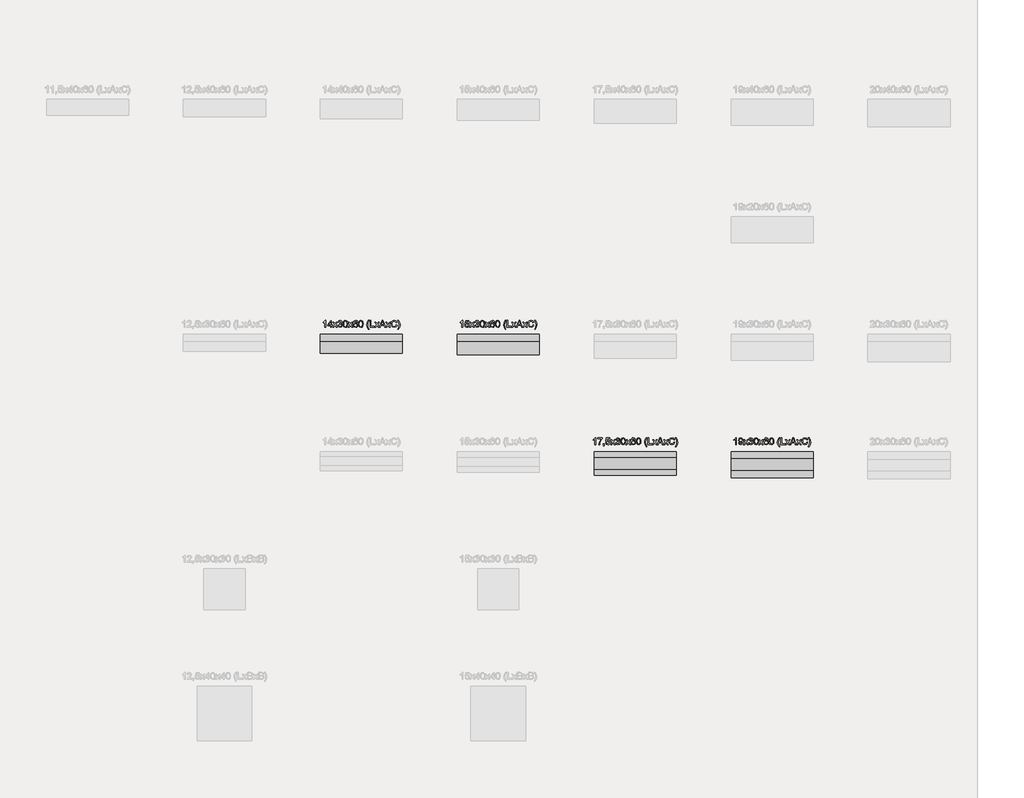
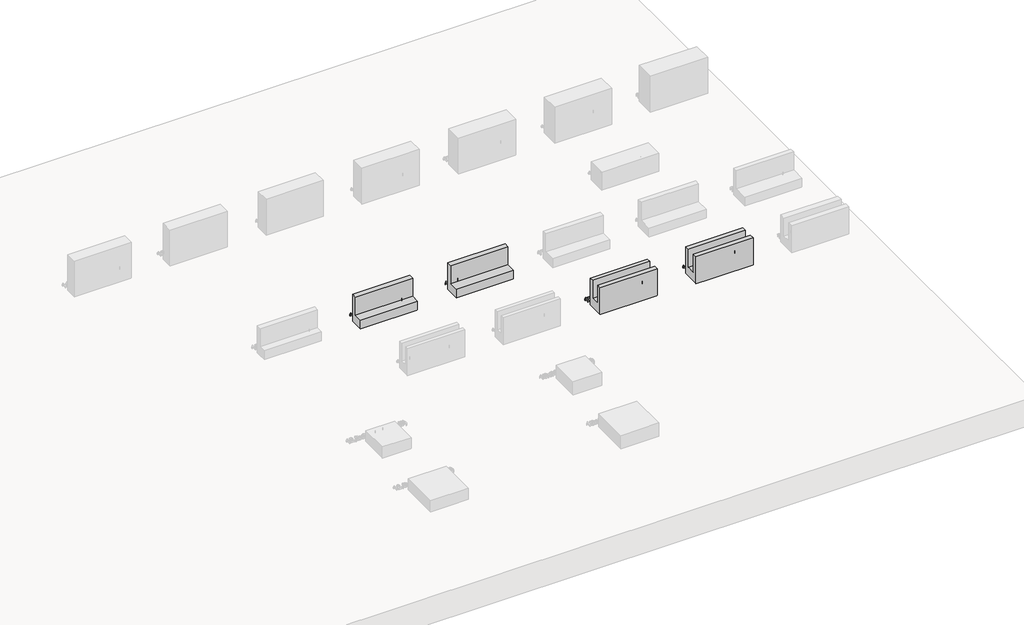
# One storey, part 9 of 26: 8 proxies.
"""IFC4 building model written with IfcOpenShell, lengths in millimetres."""

from ifc_helpers import new_model, si_unit, origin, origin_with_axes, place, context, project, spatial, polyline, outline, extrude, transform, mapped, element, save
from components import generic_models_f595f179, generic_models_95f945a7, generic_models_87ead979, generic_models_885e98a3

model = new_model("IFC4")

# Units and contexts
model_context = context("Model", 3, world=origin())
ifc_project = project(units=[si_unit("LENGTHUNIT", "METRE", prefix="MILLI")], contexts=[model_context])

# Site, building, storey
site = spatial("IfcSite", under=ifc_project)
building = spatial("IfcBuilding", under=site)
storey = spatial("IfcBuildingStorey", under=building, Name="Catálogo Celucon", Elevation=0.0)

# Proxies
placement = place(None, origin())
element("IfcBuildingElementProxy", 1, Name="Dimensões", ObjectType="Dimensões", at=placement, inside=storey, context=model_context, shape_type="SweptSolid", body=[
    extrude(outline(polyline([(-7758.0265226, -1171.1045836), (-7764.305042, -1171.1045836), (-7764.305042, -1131.9619393), (-7770.2524676, -1136.1987136), (-7776.8620808, -1139.3686301), (-7776.8620808, -1133.4334673), (-7767.6588995, -1127.5596181), (-7762.0732246, -1120.8764285), (-7758.0265226, -1120.8764285), (-7758.0265226, -1171.1045836)])), origin_with_axes(), (0.0, 0.0, 1.0), 20.0),
    extrude(outline(polyline([(-7722.7098511, -1171.1045836), (-7722.7098511, -1159.3323598), (-7745.4694838, -1159.3323598), (-7745.4694838, -1153.0538404), (-7721.1402212, -1121.6612434), (-7716.4313317, -1121.6612434), (-7716.4313317, -1153.0538404), (-7710.1528123, -1153.0538404), (-7710.1528123, -1159.3323598), (-7716.4313317, -1159.3323598), (-7716.4313317, -1171.1045836), (-7722.7098511, -1171.1045836)]), holes=[polyline([(-7722.7098511, -1153.0538404), (-7722.7098511, -1133.6541965), (-7737.7439619, -1153.0538404), (-7722.7098511, -1153.0538404)])]), origin_with_axes(), (0.0, 0.0, 1.0), 20.0),
    extrude(outline(polyline([(-7707.0135526, -1171.1045836), (-7693.5981225, -1152.563331), (-7706.2287377, -1134.2182822), (-7698.6748941, -1134.2182822), (-7692.5803157, -1143.0474501), (-7689.7353616, -1147.2167794), (-7687.2705522, -1143.8077396), (-7680.3298452, -1134.2182822), (-7672.7760016, -1134.2182822), (-7686.0442789, -1152.563331), (-7673.2665109, -1171.1045836), (-7680.8203546, -1171.1045836), (-7688.5090883, -1159.9577591), (-7689.9193026, -1157.9221454), (-7699.459709, -1171.1045836), (-7707.0135526, -1171.1045836)])), origin_with_axes(), (0.0, 0.0, 1.0), 20.0),
    extrude(outline(polyline([(-7669.3424363, -1157.7627299), (-7663.0639169, -1156.977915), (-7659.5996948, -1163.5875282), (-7653.1188403, -1165.6108791), (-7645.4914203, -1162.8272387), (-7642.6587289, -1155.9355827), (-7645.4668948, -1149.4424654), (-7652.6038055, -1146.8734228), (-7657.0061267, -1147.5601359), (-7656.3071509, -1141.2816165), (-7648.1769589, -1139.5525711), (-7645.0131737, -1134.0098158), (-7647.3063048, -1129.0985911), (-7653.2169422, -1127.1549479), (-7659.201156, -1129.1169852), (-7662.279102, -1135.0030971), (-7668.5576214, -1134.2182822), (-7663.4195362, -1124.3713075), (-7653.4376714, -1120.8764285), (-7645.8654337, -1122.5993425), (-7640.5679329, -1127.3082321), (-7638.7346543, -1133.6419338), (-7640.4759624, -1139.4299438), (-7645.6263104, -1143.5870104), (-7638.7837052, -1147.878967), (-7636.3802095, -1156.0459473), (-7641.1872009, -1167.2786108), (-7653.3395695, -1171.8893985), (-7664.3515039, -1167.9530612), (-7669.3424363, -1157.7627299)])), origin_with_axes(), (0.0, 0.0, 1.0), 20.0),
    extrude(outline(polyline([(-7630.8865051, -1146.3951763), (-7629.0409637, -1131.9435452), (-7623.559522, -1123.611018), (-7614.4053917, -1120.8764285), (-7607.0722773, -1122.4951093), (-7602.0077685, -1127.1610793), (-7599.0647125, -1134.5922956), (-7597.9242783, -1146.3951763), (-7599.7514256, -1160.7854936), (-7605.2144732, -1169.1364149), (-7614.4053917, -1171.8893985), (-7625.8833099, -1167.1069326), (-7629.6357063, -1158.6119242), (-7630.8865051, -1146.3951763)]), holes=[polyline([(-7624.6079857, -1146.3829135), (-7621.6649297, -1161.9749788), (-7614.4053917, -1165.6108791), (-7607.1458537, -1161.962716), (-7604.2027977, -1146.3829135), (-7607.0477518, -1130.9686579), (-7614.4789681, -1127.1549479), (-7621.5668279, -1130.5149368), (-7624.6079857, -1146.3829135)])]), origin_with_axes(), (0.0, 0.0, 1.0), 20.0),
    extrude(outline(polyline([(-7594.7850186, -1171.1045836), (-7581.3695885, -1152.563331), (-7594.0002037, -1134.2182822), (-7586.4463601, -1134.2182822), (-7580.3517817, -1143.0474501), (-7577.5068276, -1147.2167794), (-7575.0420182, -1143.8077396), (-7568.1013112, -1134.2182822), (-7560.5474676, -1134.2182822), (-7573.8157449, -1152.563331), (-7561.0379769, -1171.1045836), (-7568.5918206, -1171.1045836), (-7576.2805543, -1159.9577591), (-7577.6907686, -1157.9221454), (-7587.231175, -1171.1045836), (-7594.7850186, -1171.1045836)])), origin_with_axes(), (0.0, 0.0, 1.0), 20.0),
    extrude(outline(polyline([(-7524.9364905, -1134.2182822), (-7531.2150099, -1135.0030971), (-7533.5939801, -1129.7669101), (-7539.8847622, -1127.1549479), (-7545.5501449, -1128.6755268), (-7549.8359702, -1134.3838291), (-7551.6201979, -1145.5735731), (-7546.0835738, -1140.5642466), (-7539.2225746, -1138.9271718), (-7528.5539968, -1143.4030694), (-7524.1516755, -1154.9668267), (-7526.2240775, -1163.6304477), (-7531.9262484, -1169.7618143), (-7540.1545423, -1171.8893985), (-7552.9507044, -1166.2485413), (-7556.661714, -1158.7805368), (-7557.8987172, -1147.6582378), (-7556.5252911, -1135.1533156), (-7552.4050128, -1126.6031249), (-7546.7794839, -1122.3081026), (-7539.4923547, -1120.8764285), (-7529.5718036, -1124.4203584), (-7524.9364905, -1134.2182822)]), holes=[polyline([(-7551.6201979, -1154.8687249), (-7550.167064, -1160.307247), (-7546.304303, -1164.2558471), (-7540.6450517, -1165.6108791), (-7533.2444922, -1162.8027132), (-7530.4301949, -1155.1752932), (-7533.207704, -1147.8728356), (-7540.9025691, -1145.2056911), (-7548.4993323, -1147.8728356), (-7551.6201979, -1154.8687249)])]), origin_with_axes(), (0.0, 0.0, 1.0), 20.0),
    extrude(outline(polyline([(-7518.6579711, -1146.3951763), (-7516.8124297, -1131.9435452), (-7511.330988, -1123.611018), (-7502.1768577, -1120.8764285), (-7494.8437433, -1122.4951093), (-7489.7792345, -1127.1610793), (-7486.8361785, -1134.5922956), (-7485.6957443, -1146.3951763), (-7487.5228916, -1160.7854936), (-7492.9859392, -1169.1364149), (-7502.1768577, -1171.8893985), (-7513.654776, -1167.1069326), (-7517.4071723, -1158.6119242), (-7518.6579711, -1146.3951763)]), holes=[polyline([(-7512.3794517, -1146.3829135), (-7509.4363957, -1161.9749788), (-7502.1768577, -1165.6108791), (-7494.9173197, -1161.962716), (-7491.9742637, -1146.3829135), (-7494.8192178, -1130.9686579), (-7502.2504341, -1127.1549479), (-7509.3382939, -1130.5149368), (-7512.3794517, -1146.3829135)])]), origin_with_axes(), (0.0, 0.0, 1.0), 20.0),
    extrude(outline(polyline([(-7446.4549982, -1185.2312522), (-7455.3700052, -1170.5037097), (-7459.0120369, -1153.0170522), (-7456.2897102, -1137.7499494), (-7446.4549982, -1120.8764285), (-7441.7461086, -1120.8764285), (-7447.6199578, -1130.8215051), (-7451.151625, -1140.4600134), (-7452.7335176, -1153.0538404), (-7449.9866653, -1169.1486777), (-7441.7461086, -1185.2312522), (-7446.4549982, -1185.2312522)])), origin_with_axes(), (0.0, 0.0, 1.0), 20.0),
    extrude(outline(polyline([(-7434.6827743, -1171.1045836), (-7434.6827743, -1120.8764285), (-7428.4042549, -1120.8764285), (-7428.4042549, -1164.8260642), (-7403.2901774, -1164.8260642), (-7403.2901774, -1171.1045836), (-7434.6827743, -1171.1045836)])), origin_with_axes(), (0.0, 0.0, 1.0), 20.0),
    extrude(outline(polyline([(-7400.9357326, -1171.1045836), (-7387.5203025, -1152.563331), (-7400.1509177, -1134.2182822), (-7392.5970741, -1134.2182822), (-7386.5024957, -1143.0474501), (-7383.6575416, -1147.2167794), (-7381.1927322, -1143.8077396), (-7374.2520252, -1134.2182822), (-7366.6981816, -1134.2182822), (-7379.9664589, -1152.563331), (-7367.1886909, -1171.1045836), (-7374.7425346, -1171.1045836), (-7382.4312683, -1159.9577591), (-7383.8414826, -1157.9221454), (-7393.381889, -1171.1045836), (-7400.9357326, -1171.1045836)])), origin_with_axes(), (0.0, 0.0, 1.0), 20.0),
    extrude(outline(polyline([(-7366.7594953, -1171.1045836), (-7346.7099265, -1120.8764285), (-7341.3633749, -1120.8764285), (-7321.3138061, -1171.1045836), (-7327.9479448, -1171.1045836), (-7333.6991666, -1155.4082851), (-7354.3863975, -1155.4082851), (-7360.1253566, -1171.1045836), (-7366.7594953, -1171.1045836)]), holes=[polyline([(-7352.0810037, -1149.1297658), (-7335.9922977, -1149.1297658), (-7340.5172463, -1136.7811934), (-7344.0366507, -1127.1549479), (-7347.1636477, -1135.7020729), (-7352.0810037, -1149.1297658)])]), origin_with_axes(), (0.0, 0.0, 1.0), 20.0),
    extrude(outline(polyline([(-7319.3149806, -1171.1045836), (-7305.8995505, -1152.563331), (-7318.5301657, -1134.2182822), (-7310.9763221, -1134.2182822), (-7304.8817437, -1143.0474501), (-7302.0367896, -1147.2167794), (-7299.5719802, -1143.8077396), (-7292.6312733, -1134.2182822), (-7285.0774296, -1134.2182822), (-7298.3457069, -1152.563331), (-7285.5679389, -1171.1045836), (-7293.1217826, -1171.1045836), (-7300.8105163, -1159.9577591), (-7302.2207306, -1157.9221454), (-7311.761137, -1171.1045836), (-7319.3149806, -1171.1045836)])), origin_with_axes(), (0.0, 0.0, 1.0), 20.0),
    extrude(outline(polyline([(-7243.972748, -1153.2500441), (-7237.6942286, -1154.8687249), (-7245.1377077, -1167.5299969), (-7258.2833576, -1171.8893985), (-7271.3492998, -1168.5907233), (-7279.0135081, -1159.0380542), (-7281.6438643, -1145.6103613), (-7278.6701515, -1131.9619393), (-7270.214997, -1123.1143773), (-7258.1484676, -1120.0916136), (-7245.5730347, -1124.0034255), (-7238.4790436, -1135.0153599), (-7244.7575629, -1136.5114133), (-7249.9079109, -1128.7920228), (-7258.3937222, -1126.370133), (-7268.2161715, -1129.0556715), (-7273.7650583, -1136.2661587), (-7275.3653449, -1145.5980986), (-7273.4707527, -1156.4138293), (-7267.572378, -1163.3238794), (-7258.908757, -1165.6108791), (-7249.3009056, -1162.4961449), (-7243.972748, -1153.2500441)])), origin_with_axes(), (0.0, 0.0, 1.0), 20.0),
    extrude(outline(polyline([(-7228.2764496, -1185.2312522), (-7232.9853391, -1185.2312522), (-7224.7447824, -1169.1486777), (-7221.9979302, -1153.0538404), (-7223.5798228, -1140.570378), (-7227.0747017, -1130.919607), (-7232.9853391, -1120.8764285), (-7228.2764496, -1120.8764285), (-7218.4417376, -1137.7499494), (-7215.7194108, -1153.0170522), (-7219.3798366, -1170.5037097), (-7228.2764496, -1185.2312522)])), origin_with_axes(), (0.0, 0.0, 1.0), 20.0),
])
element("IfcBuildingElementProxy", 2, Name="Dimensões", ObjectType="Dimensões", at=placement, inside=storey, context=model_context, shape_type="SweptSolid", body=[
    extrude(outline(polyline([(-6758.0265226, -1171.1045836), (-6764.305042, -1171.1045836), (-6764.305042, -1131.9619393), (-6770.2524676, -1136.1987136), (-6776.8620808, -1139.3686301), (-6776.8620808, -1133.4334673), (-6767.6588995, -1127.5596181), (-6762.0732246, -1120.8764285), (-6758.0265226, -1120.8764285), (-6758.0265226, -1171.1045836)])), origin_with_axes(), (0.0, 0.0, 1.0), 20.0),
    extrude(outline(polyline([(-6743.1150391, -1157.7627299), (-6736.8365197, -1156.977915), (-6733.6727345, -1163.4465067), (-6727.1121723, -1165.6108791), (-6719.2394976, -1162.6003781), (-6716.4313317, -1154.6112075), (-6719.061688, -1147.1554657), (-6727.0140704, -1144.4208762), (-6732.526169, -1145.5122595), (-6736.0517048, -1148.3449508), (-6742.3302242, -1147.5601359), (-6736.8365197, -1121.6612434), (-6712.5072571, -1121.6612434), (-6712.5072571, -1127.9397628), (-6731.7597482, -1127.9397628), (-6734.4452867, -1141.7721258), (-6725.2604996, -1138.1423568), (-6714.5244767, -1142.6427799), (-6710.1528123, -1154.2188), (-6714.0891497, -1165.8683965), (-6719.7422697, -1170.384148), (-6727.1366978, -1171.8893985), (-6738.2160772, -1168.0205062), (-6743.1150391, -1157.7627299)])), origin_with_axes(), (0.0, 0.0, 1.0), 20.0),
    extrude(outline(polyline([(-6707.0135526, -1171.1045836), (-6693.5981225, -1152.563331), (-6706.2287377, -1134.2182822), (-6698.6748941, -1134.2182822), (-6692.5803157, -1143.0474501), (-6689.7353616, -1147.2167794), (-6687.2705522, -1143.8077396), (-6680.3298452, -1134.2182822), (-6672.7760016, -1134.2182822), (-6686.0442789, -1152.563331), (-6673.2665109, -1171.1045836), (-6680.8203546, -1171.1045836), (-6688.5090883, -1159.9577591), (-6689.9193026, -1157.9221454), (-6699.459709, -1171.1045836), (-6707.0135526, -1171.1045836)])), origin_with_axes(), (0.0, 0.0, 1.0), 20.0),
    extrude(outline(polyline([(-6669.3424363, -1157.7627299), (-6663.0639169, -1156.977915), (-6659.5996948, -1163.5875282), (-6653.1188403, -1165.6108791), (-6645.4914203, -1162.8272387), (-6642.6587289, -1155.9355827), (-6645.4668948, -1149.4424654), (-6652.6038055, -1146.8734228), (-6657.0061267, -1147.5601359), (-6656.3071509, -1141.2816165), (-6648.1769589, -1139.5525711), (-6645.0131737, -1134.0098158), (-6647.3063048, -1129.0985911), (-6653.2169422, -1127.1549479), (-6659.201156, -1129.1169852), (-6662.279102, -1135.0030971), (-6668.5576214, -1134.2182822), (-6663.4195362, -1124.3713075), (-6653.4376714, -1120.8764285), (-6645.8654337, -1122.5993425), (-6640.5679329, -1127.3082321), (-6638.7346543, -1133.6419338), (-6640.4759624, -1139.4299438), (-6645.6263104, -1143.5870104), (-6638.7837052, -1147.878967), (-6636.3802095, -1156.0459473), (-6641.1872009, -1167.2786108), (-6653.3395695, -1171.8893985), (-6664.3515039, -1167.9530612), (-6669.3424363, -1157.7627299)])), origin_with_axes(), (0.0, 0.0, 1.0), 20.0),
    extrude(outline(polyline([(-6630.8865051, -1146.3951763), (-6629.0409637, -1131.9435452), (-6623.559522, -1123.611018), (-6614.4053917, -1120.8764285), (-6607.0722773, -1122.4951093), (-6602.0077685, -1127.1610793), (-6599.0647125, -1134.5922956), (-6597.9242783, -1146.3951763), (-6599.7514256, -1160.7854936), (-6605.2144732, -1169.1364149), (-6614.4053917, -1171.8893985), (-6625.8833099, -1167.1069326), (-6629.6357063, -1158.6119242), (-6630.8865051, -1146.3951763)]), holes=[polyline([(-6624.6079857, -1146.3829135), (-6621.6649297, -1161.9749788), (-6614.4053917, -1165.6108791), (-6607.1458537, -1161.962716), (-6604.2027977, -1146.3829135), (-6607.0477518, -1130.9686579), (-6614.4789681, -1127.1549479), (-6621.5668279, -1130.5149368), (-6624.6079857, -1146.3829135)])]), origin_with_axes(), (0.0, 0.0, 1.0), 20.0),
    extrude(outline(polyline([(-6594.7850186, -1171.1045836), (-6581.3695885, -1152.563331), (-6594.0002037, -1134.2182822), (-6586.4463601, -1134.2182822), (-6580.3517817, -1143.0474501), (-6577.5068276, -1147.2167794), (-6575.0420182, -1143.8077396), (-6568.1013112, -1134.2182822), (-6560.5474676, -1134.2182822), (-6573.8157449, -1152.563331), (-6561.0379769, -1171.1045836), (-6568.5918206, -1171.1045836), (-6576.2805543, -1159.9577591), (-6577.6907686, -1157.9221454), (-6587.231175, -1171.1045836), (-6594.7850186, -1171.1045836)])), origin_with_axes(), (0.0, 0.0, 1.0), 20.0),
    extrude(outline(polyline([(-6524.9364905, -1134.2182822), (-6531.2150099, -1135.0030971), (-6533.5939801, -1129.7669101), (-6539.8847622, -1127.1549479), (-6545.5501449, -1128.6755268), (-6549.8359702, -1134.3838291), (-6551.6201979, -1145.5735731), (-6546.0835738, -1140.5642466), (-6539.2225746, -1138.9271718), (-6528.5539968, -1143.4030694), (-6524.1516755, -1154.9668267), (-6526.2240775, -1163.6304477), (-6531.9262484, -1169.7618143), (-6540.1545423, -1171.8893985), (-6552.9507044, -1166.2485413), (-6556.661714, -1158.7805368), (-6557.8987172, -1147.6582378), (-6556.5252911, -1135.1533156), (-6552.4050128, -1126.6031249), (-6546.7794839, -1122.3081026), (-6539.4923547, -1120.8764285), (-6529.5718036, -1124.4203584), (-6524.9364905, -1134.2182822)]), holes=[polyline([(-6551.6201979, -1154.8687249), (-6550.167064, -1160.307247), (-6546.304303, -1164.2558471), (-6540.6450517, -1165.6108791), (-6533.2444922, -1162.8027132), (-6530.4301949, -1155.1752932), (-6533.207704, -1147.8728356), (-6540.9025691, -1145.2056911), (-6548.4993323, -1147.8728356), (-6551.6201979, -1154.8687249)])]), origin_with_axes(), (0.0, 0.0, 1.0), 20.0),
    extrude(outline(polyline([(-6518.6579711, -1146.3951763), (-6516.8124297, -1131.9435452), (-6511.330988, -1123.611018), (-6502.1768577, -1120.8764285), (-6494.8437433, -1122.4951093), (-6489.7792345, -1127.1610793), (-6486.8361785, -1134.5922956), (-6485.6957443, -1146.3951763), (-6487.5228916, -1160.7854936), (-6492.9859392, -1169.1364149), (-6502.1768577, -1171.8893985), (-6513.654776, -1167.1069326), (-6517.4071723, -1158.6119242), (-6518.6579711, -1146.3951763)]), holes=[polyline([(-6512.3794517, -1146.3829135), (-6509.4363957, -1161.9749788), (-6502.1768577, -1165.6108791), (-6494.9173197, -1161.962716), (-6491.9742637, -1146.3829135), (-6494.8192178, -1130.9686579), (-6502.2504341, -1127.1549479), (-6509.3382939, -1130.5149368), (-6512.3794517, -1146.3829135)])]), origin_with_axes(), (0.0, 0.0, 1.0), 20.0),
    extrude(outline(polyline([(-6446.4549982, -1185.2312522), (-6455.3700052, -1170.5037097), (-6459.0120369, -1153.0170522), (-6456.2897102, -1137.7499494), (-6446.4549982, -1120.8764285), (-6441.7461086, -1120.8764285), (-6447.6199578, -1130.8215051), (-6451.151625, -1140.4600134), (-6452.7335176, -1153.0538404), (-6449.9866653, -1169.1486777), (-6441.7461086, -1185.2312522), (-6446.4549982, -1185.2312522)])), origin_with_axes(), (0.0, 0.0, 1.0), 20.0),
    extrude(outline(polyline([(-6434.6827743, -1171.1045836), (-6434.6827743, -1120.8764285), (-6428.4042549, -1120.8764285), (-6428.4042549, -1164.8260642), (-6403.2901774, -1164.8260642), (-6403.2901774, -1171.1045836), (-6434.6827743, -1171.1045836)])), origin_with_axes(), (0.0, 0.0, 1.0), 20.0),
    extrude(outline(polyline([(-6366.7594953, -1171.1045836), (-6346.7099265, -1120.8764285), (-6341.3633749, -1120.8764285), (-6321.3138061, -1171.1045836), (-6327.9479448, -1171.1045836), (-6333.6991666, -1155.4082851), (-6354.3863975, -1155.4082851), (-6360.1253566, -1171.1045836), (-6366.7594953, -1171.1045836)]), holes=[polyline([(-6352.0810037, -1149.1297658), (-6335.9922977, -1149.1297658), (-6340.5172463, -1136.7811934), (-6344.0366507, -1127.1549479), (-6347.1636477, -1135.7020729), (-6352.0810037, -1149.1297658)])]), origin_with_axes(), (0.0, 0.0, 1.0), 20.0),
    extrude(outline(polyline([(-6400.9357326, -1171.1045836), (-6387.5203025, -1152.563331), (-6400.1509177, -1134.2182822), (-6392.5970741, -1134.2182822), (-6386.5024957, -1143.0474501), (-6383.6575416, -1147.2167794), (-6381.1927322, -1143.8077396), (-6374.2520252, -1134.2182822), (-6366.6981816, -1134.2182822), (-6379.9664589, -1152.563331), (-6367.1886909, -1171.1045836), (-6374.7425346, -1171.1045836), (-6382.4312683, -1159.9577591), (-6383.8414826, -1157.9221454), (-6393.381889, -1171.1045836), (-6400.9357326, -1171.1045836)])), origin_with_axes(), (0.0, 0.0, 1.0), 20.0),
    extrude(outline(polyline([(-6319.3149806, -1171.1045836), (-6305.8995505, -1152.563331), (-6318.5301657, -1134.2182822), (-6310.9763221, -1134.2182822), (-6304.8817437, -1143.0474501), (-6302.0367896, -1147.2167794), (-6299.5719802, -1143.8077396), (-6292.6312733, -1134.2182822), (-6285.0774296, -1134.2182822), (-6298.3457069, -1152.563331), (-6285.5679389, -1171.1045836), (-6293.1217826, -1171.1045836), (-6300.8105163, -1159.9577591), (-6302.2207306, -1157.9221454), (-6311.761137, -1171.1045836), (-6319.3149806, -1171.1045836)])), origin_with_axes(), (0.0, 0.0, 1.0), 20.0),
    extrude(outline(polyline([(-6243.972748, -1153.2500441), (-6237.6942286, -1154.8687249), (-6245.1377077, -1167.5299969), (-6258.2833576, -1171.8893985), (-6271.3492998, -1168.5907233), (-6279.0135081, -1159.0380542), (-6281.6438643, -1145.6103613), (-6278.6701515, -1131.9619393), (-6270.214997, -1123.1143773), (-6258.1484676, -1120.0916136), (-6245.5730347, -1124.0034255), (-6238.4790436, -1135.0153599), (-6244.7575629, -1136.5114133), (-6249.9079109, -1128.7920228), (-6258.3937222, -1126.370133), (-6268.2161715, -1129.0556715), (-6273.7650583, -1136.2661587), (-6275.3653449, -1145.5980986), (-6273.4707527, -1156.4138293), (-6267.572378, -1163.3238794), (-6258.908757, -1165.6108791), (-6249.3009056, -1162.4961449), (-6243.972748, -1153.2500441)])), origin_with_axes(), (0.0, 0.0, 1.0), 20.0),
    extrude(outline(polyline([(-6228.2764496, -1185.2312522), (-6232.9853391, -1185.2312522), (-6224.7447824, -1169.1486777), (-6221.9979302, -1153.0538404), (-6223.5798228, -1140.570378), (-6227.0747017, -1130.919607), (-6232.9853391, -1120.8764285), (-6228.2764496, -1120.8764285), (-6218.4417376, -1137.7499494), (-6215.7194108, -1153.0170522), (-6219.3798366, -1170.5037097), (-6228.2764496, -1185.2312522)])), origin_with_axes(), (0.0, 0.0, 1.0), 20.0),
])
element("IfcBuildingElementProxy", 3, Name="Dimensões", ObjectType="Dimensões", at=placement, inside=storey, context=model_context, shape_type="SweptSolid", body=[
    extrude(outline(polyline([(-5787.0646748, -2028.2474407), (-5793.3431942, -2028.2474407), (-5793.3431942, -1989.1047965), (-5799.2906197, -1993.3415708), (-5805.9002329, -1996.5114873), (-5805.9002329, -1990.5763244), (-5796.6970517, -1984.7024752), (-5791.1113767, -1978.0192857), (-5787.0646748, -1978.0192857), (-5787.0646748, -2028.2474407)])), origin_with_axes(), (0.0, 0.0, 1.0), 20.0),
    extrude(outline(polyline([(-5772.1531912, -1985.08262), (-5772.1531912, -1978.8041006), (-5739.1909645, -1978.8041006), (-5739.1909645, -1983.8808721), (-5748.5412985, -1997.3882727), (-5755.6966033, -2014.5990187), (-5758.0265226, -2028.2474407), (-5764.305042, -2028.2474407), (-5761.8095758, -2014.0839839), (-5754.9608393, -1998.0749858), (-5745.4694838, -1985.08262), (-5772.1531912, -1985.08262)])), origin_with_axes(), (0.0, 0.0, 1.0), 20.0),
    extrude(outline(polyline([(-5730.5580003, -2028.2474407), (-5730.5580003, -2021.9689214), (-5724.2794809, -2021.9689214), (-5724.2794809, -2028.2474407), (-5725.4076524, -2034.6669816), (-5728.9883705, -2038.4500347), (-5730.5580003, -2036.09559), (-5728.2526065, -2033.3855259), (-5727.4310034, -2028.2474407), (-5730.5580003, -2028.2474407)])), origin_with_axes(), (0.0, 0.0, 1.0), 20.0),
    extrude(outline(polyline([(-5714.0768869, -2014.905587), (-5707.7983675, -2014.1207721), (-5704.6345824, -2020.5893639), (-5698.0740201, -2022.7537363), (-5690.2013454, -2019.7432353), (-5687.3931795, -2011.7540646), (-5690.0235358, -2004.2983229), (-5697.9759183, -2001.5637334), (-5703.4880168, -2002.6551166), (-5707.0135526, -2005.487808), (-5713.292072, -2004.7029931), (-5707.7983675, -1978.8041006), (-5683.4691049, -1978.8041006), (-5683.4691049, -1985.08262), (-5702.721596, -1985.08262), (-5705.4071346, -1998.914983), (-5696.2223474, -1995.285214), (-5685.4863245, -1999.785637), (-5681.1146602, -2011.3616572), (-5685.0509975, -2023.0112537), (-5690.7041175, -2027.5270052), (-5698.0985456, -2029.0322557), (-5709.177925, -2025.1633633), (-5714.0768869, -2014.905587)])), origin_with_axes(), (0.0, 0.0, 1.0), 20.0),
    extrude(outline(polyline([(-5677.9754005, -2028.2474407), (-5664.5599704, -2009.7061882), (-5677.1905855, -1991.3611394), (-5669.6367419, -1991.3611394), (-5663.5421635, -2000.1903072), (-5660.6972094, -2004.3596365), (-5658.2324001, -2000.9505967), (-5651.2916931, -1991.3611394), (-5643.7378494, -1991.3611394), (-5657.0061267, -2009.7061882), (-5644.2283588, -2028.2474407), (-5651.7822024, -2028.2474407), (-5659.4709361, -2017.1006163), (-5660.8811504, -2015.0650026), (-5670.4215568, -2028.2474407), (-5677.9754005, -2028.2474407)])), origin_with_axes(), (0.0, 0.0, 1.0), 20.0),
    extrude(outline(polyline([(-5640.3042842, -2014.905587), (-5634.0257648, -2014.1207721), (-5630.5615427, -2020.7303853), (-5624.0806882, -2022.7537363), (-5616.4532681, -2019.9700958), (-5613.6205768, -2013.0784398), (-5616.4287427, -2006.5853226), (-5623.5656534, -2004.01628), (-5627.9679746, -2004.7029931), (-5627.2689988, -1998.4244737), (-5619.1388067, -1996.6954283), (-5615.9750215, -1991.1526729), (-5618.2681526, -1986.2414483), (-5624.17879, -1984.2978051), (-5630.1630038, -1986.2598424), (-5633.2409499, -1992.1459543), (-5639.5194692, -1991.3611394), (-5634.381384, -1981.5141646), (-5624.3995192, -1978.0192857), (-5616.8272815, -1979.7421997), (-5611.5297808, -1984.4510892), (-5609.6965022, -1990.7847909), (-5611.4378103, -1996.572801), (-5616.5881582, -2000.7298675), (-5609.7455531, -2005.0218241), (-5607.3420574, -2013.1888044), (-5612.1490488, -2024.421468), (-5624.3014174, -2029.0322557), (-5635.3133518, -2025.0959183), (-5640.3042842, -2014.905587)])), origin_with_axes(), (0.0, 0.0, 1.0), 20.0),
    extrude(outline(polyline([(-5601.8483529, -2003.5380334), (-5600.0028116, -1989.0864024), (-5594.5213699, -1980.7538752), (-5585.3672395, -1978.0192857), (-5578.0341251, -1979.6379664), (-5572.9696163, -1984.3039364), (-5570.0265603, -1991.7351527), (-5568.8861262, -2003.5380334), (-5570.7132734, -2017.9283508), (-5576.176321, -2026.2792721), (-5585.3672395, -2029.0322557), (-5596.8451578, -2024.2497897), (-5600.5975541, -2015.7547813), (-5601.8483529, -2003.5380334)]), holes=[polyline([(-5595.5698335, -2003.5257707), (-5592.6267776, -2019.1178359), (-5585.3672395, -2022.7537363), (-5578.1077015, -2019.1055732), (-5575.1646455, -2003.5257707), (-5578.0095996, -1988.1115151), (-5585.4408159, -1984.2978051), (-5592.5286757, -1987.6577939), (-5595.5698335, -2003.5257707)])]), origin_with_axes(), (0.0, 0.0, 1.0), 20.0),
    extrude(outline(polyline([(-5565.7468665, -2028.2474407), (-5552.3314364, -2009.7061882), (-5564.9620515, -1991.3611394), (-5557.4082079, -1991.3611394), (-5551.3136295, -2000.1903072), (-5548.4686754, -2004.3596365), (-5546.0038661, -2000.9505967), (-5539.0631591, -1991.3611394), (-5531.5093155, -1991.3611394), (-5544.7775927, -2009.7061882), (-5531.9998248, -2028.2474407), (-5539.5536684, -2028.2474407), (-5547.2424021, -2017.1006163), (-5548.6526164, -2015.0650026), (-5558.1930228, -2028.2474407), (-5565.7468665, -2028.2474407)])), origin_with_axes(), (0.0, 0.0, 1.0), 20.0),
    extrude(outline(polyline([(-5495.8983383, -1991.3611394), (-5502.1768577, -1992.1459543), (-5504.5558279, -1986.9097672), (-5510.8466101, -1984.2978051), (-5516.5119928, -1985.818384), (-5520.797818, -1991.5266863), (-5522.5820457, -2002.7164303), (-5517.0454217, -1997.7071038), (-5510.1844225, -1996.0700289), (-5499.5158446, -2000.5459265), (-5495.1135234, -2012.1096839), (-5497.1859253, -2020.7733049), (-5502.8880962, -2026.9046715), (-5511.1163902, -2029.0322557), (-5523.9125523, -2023.3913984), (-5527.6235619, -2015.9233939), (-5528.8605651, -2004.8010949), (-5527.487139, -1992.2961728), (-5523.3668606, -1983.7459821), (-5517.7413318, -1979.4509598), (-5510.4542026, -1978.0192857), (-5500.5336515, -1981.5632156), (-5495.8983383, -1991.3611394)]), holes=[polyline([(-5522.5820457, -2012.011582), (-5521.1289118, -2017.4501042), (-5517.2661509, -2021.3987043), (-5511.6068995, -2022.7537363), (-5504.20634, -2019.9455704), (-5501.3920428, -2012.3181504), (-5504.1695518, -2005.0156927), (-5511.8644169, -2002.3485483), (-5519.4611801, -2005.0156927), (-5522.5820457, -2012.011582)])]), origin_with_axes(), (0.0, 0.0, 1.0), 20.0),
    extrude(outline(polyline([(-5489.6198189, -2003.5380334), (-5487.7742776, -1989.0864024), (-5482.2928359, -1980.7538752), (-5473.1387056, -1978.0192857), (-5465.8055911, -1979.6379664), (-5460.7410823, -1984.3039364), (-5457.7980264, -1991.7351527), (-5456.6575922, -2003.5380334), (-5458.4847394, -2017.9283508), (-5463.947787, -2026.2792721), (-5473.1387056, -2029.0322557), (-5484.6166238, -2024.2497897), (-5488.3690202, -2015.7547813), (-5489.6198189, -2003.5380334)]), holes=[polyline([(-5483.3412996, -2003.5257707), (-5480.3982436, -2019.1178359), (-5473.1387056, -2022.7537363), (-5465.8791675, -2019.1055732), (-5462.9361116, -2003.5257707), (-5465.7810656, -1988.1115151), (-5473.212282, -1984.2978051), (-5480.3001417, -1987.6577939), (-5483.3412996, -2003.5257707)])]), origin_with_axes(), (0.0, 0.0, 1.0), 20.0),
    extrude(outline(polyline([(-5417.416846, -2042.3741094), (-5426.331853, -2027.6465668), (-5429.9738848, -2010.1599093), (-5427.251558, -1994.8928065), (-5417.416846, -1978.0192857), (-5412.7079565, -1978.0192857), (-5418.5818057, -1987.9643623), (-5422.1134728, -1997.6028705), (-5423.6953654, -2010.1966975), (-5420.9485132, -2026.2915348), (-5412.7079565, -2042.3741094), (-5417.416846, -2042.3741094)])), origin_with_axes(), (0.0, 0.0, 1.0), 20.0),
    extrude(outline(polyline([(-5405.6446222, -2028.2474407), (-5405.6446222, -1978.0192857), (-5399.3661028, -1978.0192857), (-5399.3661028, -2021.9689214), (-5374.2520252, -2021.9689214), (-5374.2520252, -2028.2474407), (-5405.6446222, -2028.2474407)])), origin_with_axes(), (0.0, 0.0, 1.0), 20.0),
    extrude(outline(polyline([(-5337.7213431, -2028.2474407), (-5317.6717744, -1978.0192857), (-5312.3252227, -1978.0192857), (-5292.275654, -2028.2474407), (-5298.9097926, -2028.2474407), (-5304.6610145, -2012.5511423), (-5325.3482454, -2012.5511423), (-5331.0872045, -2028.2474407), (-5337.7213431, -2028.2474407)]), holes=[polyline([(-5323.0428515, -2006.2726229), (-5306.9541456, -2006.2726229), (-5311.4790941, -1993.9240506), (-5314.9984986, -1984.2978051), (-5318.1254955, -1992.8449301), (-5323.0428515, -2006.2726229)])]), origin_with_axes(), (0.0, 0.0, 1.0), 20.0),
    extrude(outline(polyline([(-5371.8975805, -2028.2474407), (-5358.4821504, -2009.7061882), (-5371.1127656, -1991.3611394), (-5363.5589219, -1991.3611394), (-5357.4643435, -2000.1903072), (-5354.6193894, -2004.3596365), (-5352.1545801, -2000.9505967), (-5345.2138731, -1991.3611394), (-5337.6600295, -1991.3611394), (-5350.9283068, -2009.7061882), (-5338.1505388, -2028.2474407), (-5345.7043824, -2028.2474407), (-5353.3931161, -2017.1006163), (-5354.8033304, -2015.0650026), (-5364.3437368, -2028.2474407), (-5371.8975805, -2028.2474407)])), origin_with_axes(), (0.0, 0.0, 1.0), 20.0),
    extrude(outline(polyline([(-5290.2768285, -2028.2474407), (-5276.8613984, -2009.7061882), (-5289.4920136, -1991.3611394), (-5281.9381699, -1991.3611394), (-5275.8435915, -2000.1903072), (-5272.9986374, -2004.3596365), (-5270.5338281, -2000.9505967), (-5263.5931211, -1991.3611394), (-5256.0392775, -1991.3611394), (-5269.3075548, -2009.7061882), (-5256.5297868, -2028.2474407), (-5264.0836304, -2028.2474407), (-5271.7723641, -2017.1006163), (-5273.1825784, -2015.0650026), (-5282.7229848, -2028.2474407), (-5290.2768285, -2028.2474407)])), origin_with_axes(), (0.0, 0.0, 1.0), 20.0),
    extrude(outline(polyline([(-5214.9345959, -2010.3929012), (-5208.6560765, -2012.011582), (-5216.0995555, -2024.672854), (-5229.2452055, -2029.0322557), (-5242.3111477, -2025.7335804), (-5249.9753559, -2016.1809113), (-5252.6057122, -2002.7532185), (-5249.6319994, -1989.1047965), (-5241.1768449, -1980.2572345), (-5229.1103154, -1977.2344707), (-5216.5348825, -1981.1462826), (-5209.4408914, -1992.158217), (-5215.7194108, -1993.6542705), (-5220.8697587, -1985.9348799), (-5229.3555701, -1983.5129901), (-5239.1780194, -1986.1985287), (-5244.7269061, -1993.4090158), (-5246.3271928, -2002.7409557), (-5244.4326005, -2013.5566864), (-5238.5342259, -2020.4667365), (-5229.8706049, -2022.7537363), (-5220.2627534, -2019.6390021), (-5214.9345959, -2010.3929012)])), origin_with_axes(), (0.0, 0.0, 1.0), 20.0),
    extrude(outline(polyline([(-5199.2382974, -2042.3741094), (-5203.9471869, -2042.3741094), (-5195.7066303, -2026.2915348), (-5192.959778, -2010.1966975), (-5194.5416706, -1997.7132351), (-5198.0365496, -1988.0624641), (-5203.9471869, -1978.0192857), (-5199.2382974, -1978.0192857), (-5189.4035854, -1994.8928065), (-5186.6812586, -2010.1599093), (-5190.3416845, -2027.6465668), (-5199.2382974, -2042.3741094)])), origin_with_axes(), (0.0, 0.0, 1.0), 20.0),
])
element("IfcBuildingElementProxy", 4, Name="Dimensões", ObjectType="Dimensões", at=placement, inside=storey, context=model_context, shape_type="SweptSolid", body=[
    extrude(outline(polyline([(-4758.0265226, -2028.2474407), (-4764.305042, -2028.2474407), (-4764.305042, -1989.1047965), (-4770.2524676, -1993.3415708), (-4776.8620808, -1996.5114873), (-4776.8620808, -1990.5763244), (-4767.6588995, -1984.7024752), (-4762.0732246, -1978.0192857), (-4758.0265226, -1978.0192857), (-4758.0265226, -2028.2474407)])), origin_with_axes(), (0.0, 0.0, 1.0), 20.0),
    extrude(outline(polyline([(-4742.3302242, -2015.690402), (-4736.0517048, -2014.905587), (-4733.2312761, -2020.8959322), (-4727.8847245, -2022.7537363), (-4722.8018216, -2021.5581198), (-4719.3559936, -2018.3636778), (-4717.3019857, -2012.9067615), (-4716.3945435, -2005.622698), (-4721.4529209, -2009.1543652), (-4728.3384456, -2010.9815124), (-4738.8292138, -2006.5178776), (-4743.1150391, -1994.7579164), (-4738.6207474, -1982.6178106), (-4727.357427, -1978.0192857), (-4718.4117631, -1980.6435106), (-4712.255871, -1988.1237778), (-4710.1528123, -2002.17687), (-4712.2497397, -2017.4255787), (-4718.4853395, -2026.0646742), (-4728.1790301, -2029.0322557), (-4737.8298011, -2025.5312453), (-4742.3302242, -2015.690402)]), holes=[polyline([(-4716.4313317, -1994.6107636), (-4719.1413957, -1987.0814455), (-4726.3396201, -1984.2978051), (-4733.8934637, -1987.2960433), (-4736.8365197, -1995.0644848), (-4734.0528793, -2002.0235859), (-4726.5112984, -2004.7029931), (-4719.2701544, -2002.0235859), (-4716.4313317, -1994.6107636)])]), origin_with_axes(), (0.0, 0.0, 1.0), 20.0),
    extrude(outline(polyline([(-4707.0135526, -2028.2474407), (-4693.5981225, -2009.7061882), (-4706.2287377, -1991.3611394), (-4698.6748941, -1991.3611394), (-4692.5803157, -2000.1903072), (-4689.7353616, -2004.3596365), (-4687.2705522, -2000.9505967), (-4680.3298452, -1991.3611394), (-4672.7760016, -1991.3611394), (-4686.0442789, -2009.7061882), (-4673.2665109, -2028.2474407), (-4680.8203546, -2028.2474407), (-4688.5090883, -2017.1006163), (-4689.9193026, -2015.0650026), (-4699.459709, -2028.2474407), (-4707.0135526, -2028.2474407)])), origin_with_axes(), (0.0, 0.0, 1.0), 20.0),
    extrude(outline(polyline([(-4669.3424363, -2014.905587), (-4663.0639169, -2014.1207721), (-4659.5996948, -2020.7303853), (-4653.1188403, -2022.7537363), (-4645.4914203, -2019.9700958), (-4642.6587289, -2013.0784398), (-4645.4668948, -2006.5853226), (-4652.6038055, -2004.01628), (-4657.0061267, -2004.7029931), (-4656.3071509, -1998.4244737), (-4648.1769589, -1996.6954283), (-4645.0131737, -1991.1526729), (-4647.3063048, -1986.2414483), (-4653.2169422, -1984.2978051), (-4659.201156, -1986.2598424), (-4662.279102, -1992.1459543), (-4668.5576214, -1991.3611394), (-4663.4195362, -1981.5141646), (-4653.4376714, -1978.0192857), (-4645.8654337, -1979.7421997), (-4640.5679329, -1984.4510892), (-4638.7346543, -1990.7847909), (-4640.4759624, -1996.572801), (-4645.6263104, -2000.7298675), (-4638.7837052, -2005.0218241), (-4636.3802095, -2013.1888044), (-4641.1872009, -2024.421468), (-4653.3395695, -2029.0322557), (-4664.3515039, -2025.0959183), (-4669.3424363, -2014.905587)])), origin_with_axes(), (0.0, 0.0, 1.0), 20.0),
    extrude(outline(polyline([(-4630.8865051, -2003.5380334), (-4629.0409637, -1989.0864024), (-4623.559522, -1980.7538752), (-4614.4053917, -1978.0192857), (-4607.0722773, -1979.6379664), (-4602.0077685, -1984.3039364), (-4599.0647125, -1991.7351527), (-4597.9242783, -2003.5380334), (-4599.7514256, -2017.9283508), (-4605.2144732, -2026.2792721), (-4614.4053917, -2029.0322557), (-4625.8833099, -2024.2497897), (-4629.6357063, -2015.7547813), (-4630.8865051, -2003.5380334)]), holes=[polyline([(-4624.6079857, -2003.5257707), (-4621.6649297, -2019.1178359), (-4614.4053917, -2022.7537363), (-4607.1458537, -2019.1055732), (-4604.2027977, -2003.5257707), (-4607.0477518, -1988.1115151), (-4614.4789681, -1984.2978051), (-4621.5668279, -1987.6577939), (-4624.6079857, -2003.5257707)])]), origin_with_axes(), (0.0, 0.0, 1.0), 20.0),
    extrude(outline(polyline([(-4594.7850186, -2028.2474407), (-4581.3695885, -2009.7061882), (-4594.0002037, -1991.3611394), (-4586.4463601, -1991.3611394), (-4580.3517817, -2000.1903072), (-4577.5068276, -2004.3596365), (-4575.0420182, -2000.9505967), (-4568.1013112, -1991.3611394), (-4560.5474676, -1991.3611394), (-4573.8157449, -2009.7061882), (-4561.0379769, -2028.2474407), (-4568.5918206, -2028.2474407), (-4576.2805543, -2017.1006163), (-4577.6907686, -2015.0650026), (-4587.231175, -2028.2474407), (-4594.7850186, -2028.2474407)])), origin_with_axes(), (0.0, 0.0, 1.0), 20.0),
    extrude(outline(polyline([(-4524.9364905, -1991.3611394), (-4531.2150099, -1992.1459543), (-4533.5939801, -1986.9097672), (-4539.8847622, -1984.2978051), (-4545.5501449, -1985.818384), (-4549.8359702, -1991.5266863), (-4551.6201979, -2002.7164303), (-4546.0835738, -1997.7071038), (-4539.2225746, -1996.0700289), (-4528.5539968, -2000.5459265), (-4524.1516755, -2012.1096839), (-4526.2240775, -2020.7733049), (-4531.9262484, -2026.9046715), (-4540.1545423, -2029.0322557), (-4552.9507044, -2023.3913984), (-4556.661714, -2015.9233939), (-4557.8987172, -2004.8010949), (-4556.5252911, -1992.2961728), (-4552.4050128, -1983.7459821), (-4546.7794839, -1979.4509598), (-4539.4923547, -1978.0192857), (-4529.5718036, -1981.5632156), (-4524.9364905, -1991.3611394)]), holes=[polyline([(-4551.6201979, -2012.011582), (-4550.167064, -2017.4501042), (-4546.304303, -2021.3987043), (-4540.6450517, -2022.7537363), (-4533.2444922, -2019.9455704), (-4530.4301949, -2012.3181504), (-4533.207704, -2005.0156927), (-4540.9025691, -2002.3485483), (-4548.4993323, -2005.0156927), (-4551.6201979, -2012.011582)])]), origin_with_axes(), (0.0, 0.0, 1.0), 20.0),
    extrude(outline(polyline([(-4518.6579711, -2003.5380334), (-4516.8124297, -1989.0864024), (-4511.330988, -1980.7538752), (-4502.1768577, -1978.0192857), (-4494.8437433, -1979.6379664), (-4489.7792345, -1984.3039364), (-4486.8361785, -1991.7351527), (-4485.6957443, -2003.5380334), (-4487.5228916, -2017.9283508), (-4492.9859392, -2026.2792721), (-4502.1768577, -2029.0322557), (-4513.654776, -2024.2497897), (-4517.4071723, -2015.7547813), (-4518.6579711, -2003.5380334)]), holes=[polyline([(-4512.3794517, -2003.5257707), (-4509.4363957, -2019.1178359), (-4502.1768577, -2022.7537363), (-4494.9173197, -2019.1055732), (-4491.9742637, -2003.5257707), (-4494.8192178, -1988.1115151), (-4502.2504341, -1984.2978051), (-4509.3382939, -1987.6577939), (-4512.3794517, -2003.5257707)])]), origin_with_axes(), (0.0, 0.0, 1.0), 20.0),
    extrude(outline(polyline([(-4446.4549982, -2042.3741094), (-4455.3700052, -2027.6465668), (-4459.0120369, -2010.1599093), (-4456.2897102, -1994.8928065), (-4446.4549982, -1978.0192857), (-4441.7461086, -1978.0192857), (-4447.6199578, -1987.9643623), (-4451.151625, -1997.6028705), (-4452.7335176, -2010.1966975), (-4449.9866653, -2026.2915348), (-4441.7461086, -2042.3741094), (-4446.4549982, -2042.3741094)])), origin_with_axes(), (0.0, 0.0, 1.0), 20.0),
    extrude(outline(polyline([(-4434.6827743, -2028.2474407), (-4434.6827743, -1978.0192857), (-4428.4042549, -1978.0192857), (-4428.4042549, -2021.9689214), (-4403.2901774, -2021.9689214), (-4403.2901774, -2028.2474407), (-4434.6827743, -2028.2474407)])), origin_with_axes(), (0.0, 0.0, 1.0), 20.0),
    extrude(outline(polyline([(-4366.7594953, -2028.2474407), (-4346.7099265, -1978.0192857), (-4341.3633749, -1978.0192857), (-4321.3138061, -2028.2474407), (-4327.9479448, -2028.2474407), (-4333.6991666, -2012.5511423), (-4354.3863975, -2012.5511423), (-4360.1253566, -2028.2474407), (-4366.7594953, -2028.2474407)]), holes=[polyline([(-4352.0810037, -2006.2726229), (-4335.9922977, -2006.2726229), (-4340.5172463, -1993.9240506), (-4344.0366507, -1984.2978051), (-4347.1636477, -1992.8449301), (-4352.0810037, -2006.2726229)])]), origin_with_axes(), (0.0, 0.0, 1.0), 20.0),
    extrude(outline(polyline([(-4400.9357326, -2028.2474407), (-4387.5203025, -2009.7061882), (-4400.1509177, -1991.3611394), (-4392.5970741, -1991.3611394), (-4386.5024957, -2000.1903072), (-4383.6575416, -2004.3596365), (-4381.1927322, -2000.9505967), (-4374.2520252, -1991.3611394), (-4366.6981816, -1991.3611394), (-4379.9664589, -2009.7061882), (-4367.1886909, -2028.2474407), (-4374.7425346, -2028.2474407), (-4382.4312683, -2017.1006163), (-4383.8414826, -2015.0650026), (-4393.381889, -2028.2474407), (-4400.9357326, -2028.2474407)])), origin_with_axes(), (0.0, 0.0, 1.0), 20.0),
    extrude(outline(polyline([(-4319.3149806, -2028.2474407), (-4305.8995505, -2009.7061882), (-4318.5301657, -1991.3611394), (-4310.9763221, -1991.3611394), (-4304.8817437, -2000.1903072), (-4302.0367896, -2004.3596365), (-4299.5719802, -2000.9505967), (-4292.6312733, -1991.3611394), (-4285.0774296, -1991.3611394), (-4298.3457069, -2009.7061882), (-4285.5679389, -2028.2474407), (-4293.1217826, -2028.2474407), (-4300.8105163, -2017.1006163), (-4302.2207306, -2015.0650026), (-4311.761137, -2028.2474407), (-4319.3149806, -2028.2474407)])), origin_with_axes(), (0.0, 0.0, 1.0), 20.0),
    extrude(outline(polyline([(-4243.972748, -2010.3929012), (-4237.6942286, -2012.011582), (-4245.1377077, -2024.672854), (-4258.2833576, -2029.0322557), (-4271.3492998, -2025.7335804), (-4279.0135081, -2016.1809113), (-4281.6438643, -2002.7532185), (-4278.6701515, -1989.1047965), (-4270.214997, -1980.2572345), (-4258.1484676, -1977.2344707), (-4245.5730347, -1981.1462826), (-4238.4790436, -1992.158217), (-4244.7575629, -1993.6542705), (-4249.9079109, -1985.9348799), (-4258.3937222, -1983.5129901), (-4268.2161715, -1986.1985287), (-4273.7650583, -1993.4090158), (-4275.3653449, -2002.7409557), (-4273.4707527, -2013.5566864), (-4267.572378, -2020.4667365), (-4258.908757, -2022.7537363), (-4249.3009056, -2019.6390021), (-4243.972748, -2010.3929012)])), origin_with_axes(), (0.0, 0.0, 1.0), 20.0),
    extrude(outline(polyline([(-4228.2764496, -2042.3741094), (-4232.9853391, -2042.3741094), (-4224.7447824, -2026.2915348), (-4221.9979302, -2010.1966975), (-4223.5798228, -1997.7132351), (-4227.0747017, -1988.0624641), (-4232.9853391, -1978.0192857), (-4228.2764496, -1978.0192857), (-4218.4417376, -1994.8928065), (-4215.7194108, -2010.1599093), (-4219.3798366, -2027.6465668), (-4228.2764496, -2042.3741094)])), origin_with_axes(), (0.0, 0.0, 1.0), 20.0),
])
generic_models_shape = generic_models_f595f179(model_context)
element("IfcBuildingElementProxy", 5, Name="Módulo L de Concreto Celular - Celucon : MLCC 15x30x60cm (L x A x C)", ObjectType="Módulo L de Concreto Celular - Celucon : MLCC 15x30x60cm (L x A x C)", at=placement, inside=storey, context=model_context, shape_type="MappedRepresentation", body=[
    mapped(generic_models_shape, transform((-6497.8603756, -1296.1045836, 0.0), x_axis=(1.0, 0.0, 0.0), y_axis=(0.0, 1.0, 0.0), z_axis=(0.0, 0.0, 1.0))),
])
generic_models_2_shape = generic_models_95f945a7(model_context)
element("IfcBuildingElementProxy", 6, Name="Módulo L de Concreto Celular - Celucon : MLCC 14x30x60cm (L x A x C)", ObjectType="Módulo L de Concreto Celular - Celucon : MLCC 14x30x60cm (L x A x C)", at=placement, inside=storey, context=model_context, shape_type="MappedRepresentation", body=[
    mapped(generic_models_2_shape, transform((-7497.8603756, -1291.1045836, 0.0), x_axis=(1.0, 0.0, 0.0), y_axis=(0.0, 1.0, 0.0), z_axis=(0.0, 0.0, 1.0))),
])
generic_models_3_shape = generic_models_87ead979(model_context)
element("IfcBuildingElementProxy", 7, Name="Módulo U de Concreto Celular - Celucon : MUCC 19x30x60cm (L x A x C)", ObjectType="Módulo U de Concreto Celular - Celucon : MUCC 19x30x60cm (L x A x C)", at=placement, inside=storey, context=model_context, shape_type="MappedRepresentation", body=[
    mapped(generic_models_3_shape, transform((-4497.8603756, -2173.2474407, 0.0), x_axis=(1.0, 0.0, 0.0), y_axis=(0.0, 1.0, 0.0), z_axis=(0.0, 0.0, 1.0))),
])
generic_models_4_shape = generic_models_885e98a3(model_context)
element("IfcBuildingElementProxy", 8, Name="Módulo U de Concreto Celular - Celucon : MUCC 17,5x30x60cm (L x A x C)", ObjectType="Módulo U de Concreto Celular - Celucon : MUCC 17,5x30x60cm (L x A x C)", at=placement, inside=storey, context=model_context, shape_type="MappedRepresentation", body=[
    mapped(generic_models_4_shape, transform((-5497.8603756, -2165.7474407, 0.0), x_axis=(1.0, 0.0, 0.0), y_axis=(0.0, 1.0, 0.0), z_axis=(0.0, 0.0, 1.0))),
])

save(model, "model.ifc")
